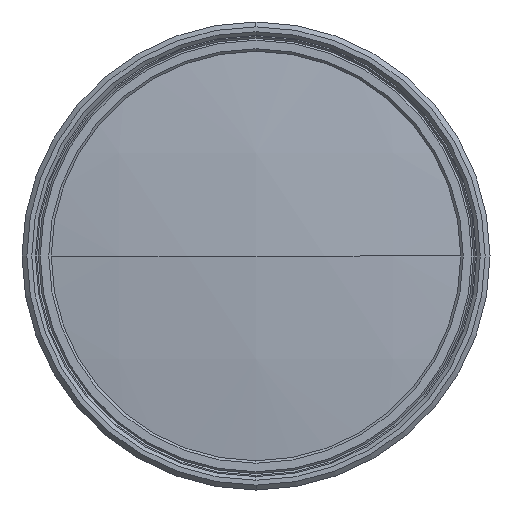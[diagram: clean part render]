
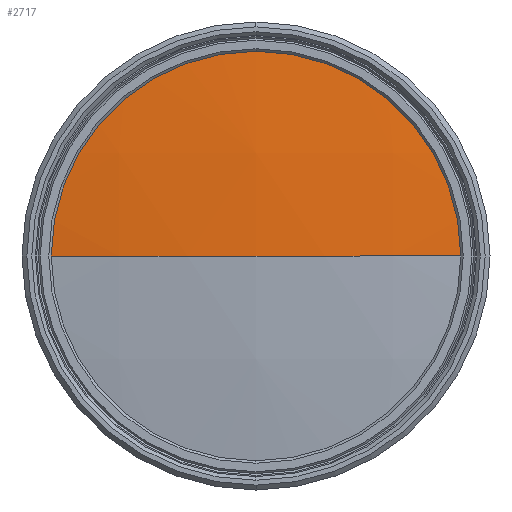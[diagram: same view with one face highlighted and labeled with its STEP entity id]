
A CAD part, left-side view. The second image highlights one B-rep face of the part: STEP entity #2717.
In plain terms, the highlighted spherical face has radius 165 mm.
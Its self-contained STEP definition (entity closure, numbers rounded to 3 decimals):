
#40 = DIRECTION ( 'NONE',  ( 0., 0., 1. ) ) ;
#89 = DIRECTION ( 'NONE',  ( -1., 0., 0. ) ) ;
#103 = DIRECTION ( 'NONE',  ( 0., 0., -1. ) ) ;
#213 = ORIENTED_EDGE ( 'NONE', *, *, #735, .T. ) ;
#279 = DIRECTION ( 'NONE',  ( 0., 0., 1. ) ) ;
#406 = EDGE_CURVE ( 'NONE', #2671, #1789, #1664, .T. ) ;
#421 = CARTESIAN_POINT ( 'NONE',  ( 5.995, 0., 21.1 ) ) ;
#563 = DIRECTION ( 'NONE',  ( 1., 0., 0. ) ) ;
#623 = EDGE_CURVE ( 'NONE', #1132, #2456, #1660, .T. ) ;
#700 = AXIS2_PLACEMENT_3D ( 'NONE', #1841, #563, #2044 ) ;
#735 = EDGE_CURVE ( 'NONE', #2671, #2456, #2591, .T. ) ;
#737 = AXIS2_PLACEMENT_3D ( 'NONE', #2627, #1362, #89 ) ;
#856 = AXIS2_PLACEMENT_3D ( 'NONE', #1559, #279, #1772 ) ;
#867 = ORIENTED_EDGE ( 'NONE', *, *, #1329, .F. ) ;
#1000 = EDGE_LOOP ( 'NONE', ( #2448, #213, #2571, #867 ) ) ;
#1033 = FACE_OUTER_BOUND ( 'NONE', #1000, .T. ) ;
#1049 = CIRCLE ( 'NONE', #700, 21.1 ) ;
#1132 = VERTEX_POINT ( 'NONE', #421 ) ;
#1188 = CARTESIAN_POINT ( 'NONE',  ( 5.995, -21.1, 0. ) ) ;
#1280 = CARTESIAN_POINT ( 'NONE',  ( 4.64, 0., 0. ) ) ;
#1329 = EDGE_CURVE ( 'NONE', #1789, #1132, #1049, .T. ) ;
#1362 = DIRECTION ( 'NONE',  ( 0., 0., -1. ) ) ;
#1370 = DIRECTION ( 'NONE',  ( 1., 0., 0. ) ) ;
#1390 = AXIS2_PLACEMENT_3D ( 'NONE', #2638, #1370, #103 ) ;
#1530 = DIRECTION ( 'NONE',  ( 0., 1., 0. ) ) ;
#1559 = CARTESIAN_POINT ( 'NONE',  ( 169.64, 0., 0. ) ) ;
#1660 = CIRCLE ( 'NONE', #1390, 21.1 ) ;
#1664 = CIRCLE ( 'NONE', #737, 165. ) ;
#1772 = DIRECTION ( 'NONE',  ( 0., -1., 0. ) ) ;
#1789 = VERTEX_POINT ( 'NONE', #2750 ) ;
#1841 = CARTESIAN_POINT ( 'NONE',  ( 5.995, 0., 0. ) ) ;
#2044 = DIRECTION ( 'NONE',  ( 0., 0., -1. ) ) ;
#2178 = SPHERICAL_SURFACE ( 'NONE', #2278, 165. ) ;
#2278 = AXIS2_PLACEMENT_3D ( 'NONE', #2573, #40, #1530 ) ;
#2448 = ORIENTED_EDGE ( 'NONE', *, *, #406, .F. ) ;
#2456 = VERTEX_POINT ( 'NONE', #1188 ) ;
#2571 = ORIENTED_EDGE ( 'NONE', *, *, #623, .F. ) ;
#2573 = CARTESIAN_POINT ( 'NONE',  ( 169.64, 0., 0. ) ) ;
#2591 = CIRCLE ( 'NONE', #856, 165. ) ;
#2627 = CARTESIAN_POINT ( 'NONE',  ( 169.64, 0., 0. ) ) ;
#2638 = CARTESIAN_POINT ( 'NONE',  ( 5.995, 0., 0. ) ) ;
#2671 = VERTEX_POINT ( 'NONE', #1280 ) ;
#2717 = ADVANCED_FACE ( 'NONE', ( #1033 ), #2178, .T. ) ;
#2750 = CARTESIAN_POINT ( 'NONE',  ( 5.995, 21.1, 0. ) ) ;
